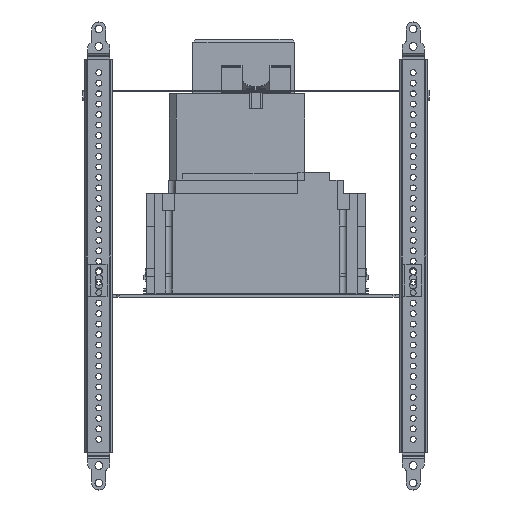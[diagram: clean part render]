
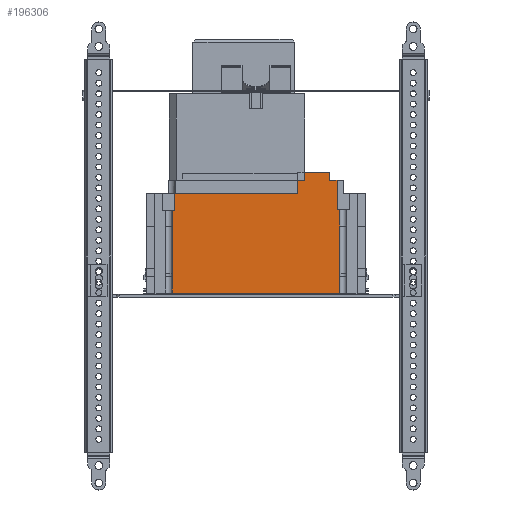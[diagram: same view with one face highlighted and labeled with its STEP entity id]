
A CAD part, left-side view. The second image highlights one B-rep face of the part: STEP entity #196306.
In plain terms, the highlighted planar face has unit normal (-1, 0, 0).
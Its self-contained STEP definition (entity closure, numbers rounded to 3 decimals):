
#181581=CARTESIAN_POINT(' ',(-214.311,-53.186,-65.147));
#181582=VERTEX_POINT(' ',#181581);
#181596=CARTESIAN_POINT(' ',(-214.311,-53.186,-65.147));
#181601=DIRECTION(' ',(0.,1.,0.));
#181606=VECTOR(' ',#181601,1.);
#181611=LINE('',#181596,#181606);
#181616=CARTESIAN_POINT(' ',(-214.311,59.234,-65.147));
#181617=VERTEX_POINT(' ',#181616);
#181621=EDGE_CURVE(' ',#181582,#181617,#181611,.T.);
#195686=CARTESIAN_POINT(' ',(-214.311,-53.186,-65.147));
#195691=DIRECTION(' ',(0.,0.,1.));
#195696=VECTOR(' ',#195691,1.);
#195701=LINE('',#195686,#195696);
#195706=CARTESIAN_POINT(' ',(-214.311,-53.186,-64.647));
#195707=VERTEX_POINT(' ',#195706);
#195711=EDGE_CURVE(' ',#181582,#195707,#195701,.T.);
#195776=DIRECTION(' ',(-1.,0.,0.));
#195781=CARTESIAN_POINT(' ',(-214.311,-56.888,-65.147));
#195786=DIRECTION(' ',(0.,-0.,1.));
#195791=AXIS2_PLACEMENT_3D(' ',#195781,#195776,#195786);
#195796=PLANE('NONE',#195791);
#195801=CARTESIAN_POINT(' ',(-214.311,-56.888,-5.216));
#195806=DIRECTION(' ',(0.,0.,-1.));
#195811=VECTOR(' ',#195806,1.);
#195816=LINE('',#195801,#195811);
#195821=CARTESIAN_POINT(' ',(-214.311,-56.888,-5.216));
#195822=VERTEX_POINT(' ',#195821);
#195826=CARTESIAN_POINT(' ',(-214.311,-56.888,-64.647));
#195827=VERTEX_POINT(' ',#195826);
#195831=EDGE_CURVE(' ',#195822,#195827,#195816,.T.);
#195836=ORIENTED_EDGE(' ',*,*,#195831,.F.);
#195841=CARTESIAN_POINT(' ',(-214.311,-54.988,-5.216));
#195846=DIRECTION(' ',(0.,-1.,0.));
#195851=VECTOR(' ',#195846,1.);
#195856=LINE('',#195841,#195851);
#195861=CARTESIAN_POINT(' ',(-214.311,-54.988,-5.216));
#195862=VERTEX_POINT(' ',#195861);
#195866=EDGE_CURVE(' ',#195862,#195822,#195856,.T.);
#195871=ORIENTED_EDGE(' ',*,*,#195866,.F.);
#195876=CARTESIAN_POINT(' ',(-214.311,-54.988,15.994));
#195881=DIRECTION(' ',(0.,0.,-1.));
#195886=VECTOR(' ',#195881,1.);
#195891=LINE('',#195876,#195886);
#195896=CARTESIAN_POINT(' ',(-214.311,-54.988,15.994));
#195897=VERTEX_POINT(' ',#195896);
#195901=EDGE_CURVE(' ',#195897,#195862,#195891,.T.);
#195906=ORIENTED_EDGE(' ',*,*,#195901,.F.);
#195911=CARTESIAN_POINT(' ',(-214.311,-49.491,15.994));
#195916=DIRECTION(' ',(0.,-1.,0.));
#195921=VECTOR(' ',#195916,1.);
#195926=LINE('',#195911,#195921);
#195931=CARTESIAN_POINT(' ',(-214.311,-49.491,15.994));
#195932=VERTEX_POINT(' ',#195931);
#195936=EDGE_CURVE(' ',#195932,#195897,#195926,.T.);
#195941=ORIENTED_EDGE(' ',*,*,#195936,.F.);
#195946=CARTESIAN_POINT(' ',(-214.311,-49.491,21.844));
#195951=DIRECTION(' ',(0.,0.,-1.));
#195956=VECTOR(' ',#195951,1.);
#195961=LINE('',#195946,#195956);
#195966=CARTESIAN_POINT(' ',(-214.311,-49.491,21.844));
#195967=VERTEX_POINT(' ',#195966);
#195971=EDGE_CURVE(' ',#195967,#195932,#195961,.T.);
#195976=ORIENTED_EDGE(' ',*,*,#195971,.F.);
#195981=CARTESIAN_POINT(' ',(-214.311,-26.993,21.844));
#195986=DIRECTION(' ',(0.,-1.,0.));
#195991=VECTOR(' ',#195986,1.);
#195996=LINE('',#195981,#195991);
#196001=CARTESIAN_POINT(' ',(-214.311,-26.993,21.844));
#196002=VERTEX_POINT(' ',#196001);
#196006=EDGE_CURVE(' ',#196002,#195967,#195996,.T.);
#196011=ORIENTED_EDGE(' ',*,*,#196006,.F.);
#196016=CARTESIAN_POINT(' ',(-214.311,-26.993,21.844));
#196021=DIRECTION(' ',(0.,0.,-1.));
#196026=VECTOR(' ',#196021,1.);
#196031=LINE('',#196016,#196026);
#196036=CARTESIAN_POINT(' ',(-214.311,-26.993,6.704));
#196037=VERTEX_POINT(' ',#196036);
#196041=EDGE_CURVE(' ',#196002,#196037,#196031,.T.);
#196046=ORIENTED_EDGE(' ',*,*,#196041,.T.);
#196051=CARTESIAN_POINT(' ',(-214.311,-26.993,6.704));
#196056=DIRECTION(' ',(0.,1.,0.));
#196061=VECTOR(' ',#196056,1.);
#196066=LINE('',#196051,#196061);
#196071=CARTESIAN_POINT(' ',(-214.311,61.034,6.704));
#196072=VERTEX_POINT(' ',#196071);
#196076=EDGE_CURVE(' ',#196037,#196072,#196066,.T.);
#196081=ORIENTED_EDGE(' ',*,*,#196076,.T.);
#196086=CARTESIAN_POINT(' ',(-214.311,61.034,6.704));
#196091=DIRECTION(' ',(0.,0.,-1.));
#196096=VECTOR(' ',#196091,1.);
#196101=LINE('',#196086,#196096);
#196106=CARTESIAN_POINT(' ',(-214.311,61.034,-5.596));
#196107=VERTEX_POINT(' ',#196106);
#196111=EDGE_CURVE(' ',#196072,#196107,#196101,.T.);
#196116=ORIENTED_EDGE(' ',*,*,#196111,.T.);
#196121=CARTESIAN_POINT(' ',(-214.311,61.034,-5.596));
#196126=DIRECTION(' ',(0.,1.,0.));
#196131=VECTOR(' ',#196126,1.);
#196136=LINE('',#196121,#196131);
#196141=CARTESIAN_POINT(' ',(-214.311,62.936,-5.596));
#196142=VERTEX_POINT(' ',#196141);
#196146=EDGE_CURVE(' ',#196107,#196142,#196136,.T.);
#196151=ORIENTED_EDGE(' ',*,*,#196146,.T.);
#196156=CARTESIAN_POINT(' ',(-214.311,62.936,-64.647));
#196161=DIRECTION(' ',(0.,0.,1.));
#196166=VECTOR(' ',#196161,1.);
#196171=LINE('',#196156,#196166);
#196176=CARTESIAN_POINT(' ',(-214.311,62.936,-64.647));
#196177=VERTEX_POINT(' ',#196176);
#196181=EDGE_CURVE(' ',#196177,#196142,#196171,.T.);
#196186=ORIENTED_EDGE(' ',*,*,#196181,.F.);
#196191=CARTESIAN_POINT(' ',(-214.311,62.936,-64.647));
#196196=DIRECTION(' ',(0.,-1.,0.));
#196201=VECTOR(' ',#196196,1.);
#196206=LINE('',#196191,#196201);
#196211=CARTESIAN_POINT(' ',(-214.311,59.234,-64.647));
#196212=VERTEX_POINT(' ',#196211);
#196216=EDGE_CURVE(' ',#196177,#196212,#196206,.T.);
#196221=ORIENTED_EDGE(' ',*,*,#196216,.T.);
#196226=CARTESIAN_POINT(' ',(-214.311,59.234,-65.147));
#196231=DIRECTION(' ',(0.,0.,1.));
#196236=VECTOR(' ',#196231,1.);
#196241=LINE('',#196226,#196236);
#196246=EDGE_CURVE(' ',#181617,#196212,#196241,.T.);
#196251=ORIENTED_EDGE(' ',*,*,#196246,.F.);
#196256=ORIENTED_EDGE(' ',*,*,#181621,.F.);
#196261=ORIENTED_EDGE(' ',*,*,#195711,.T.);
#196266=CARTESIAN_POINT(' ',(-214.311,-56.888,-64.647));
#196271=DIRECTION(' ',(0.,1.,0.));
#196276=VECTOR(' ',#196271,1.);
#196281=LINE('',#196266,#196276);
#196286=EDGE_CURVE(' ',#195827,#195707,#196281,.T.);
#196291=ORIENTED_EDGE(' ',*,*,#196286,.F.);
#196296=EDGE_LOOP(' ',(#195836,#195871,#195906,#195941,#195976,#196011,#196046,#196081,#196116,#196151,#196186,#196221,#196251,#196256,#196261,#196291));
#196301=FACE_OUTER_BOUND(' ',#196296,.T.);
#196306=ADVANCED_FACE('NONE',(#196301),#195796,.T.);
